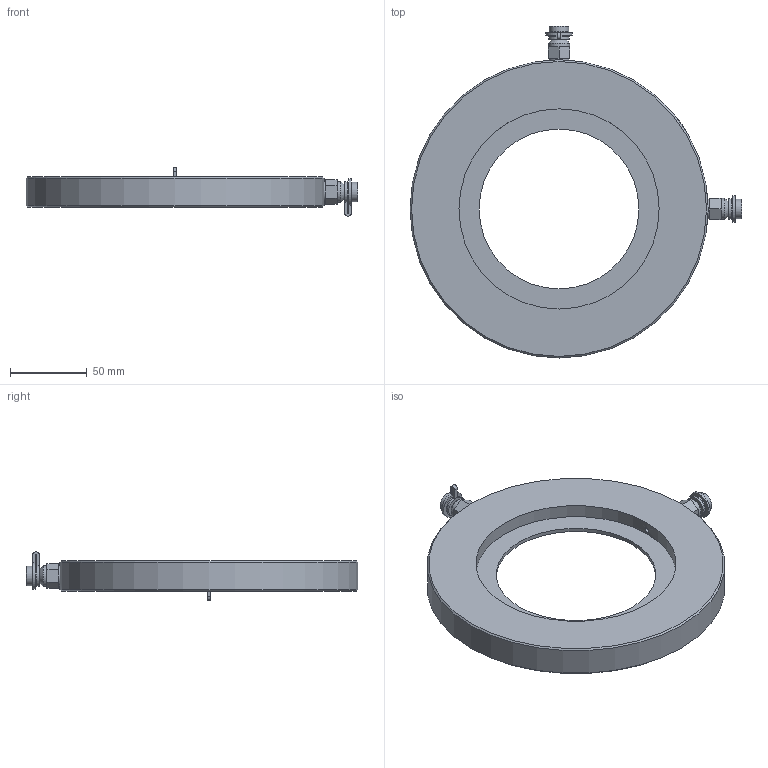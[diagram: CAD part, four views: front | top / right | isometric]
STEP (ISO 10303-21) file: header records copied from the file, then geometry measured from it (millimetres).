
FILE_DESCRIPTION((''),'2;1');
FILE_NAME('P:\Fastrack\53972_CRANE 3D\Workspace\HATTERSLEY\Fig-2000_DN125\Fig-2000_DN125.stp','2011-03-08T09:44:26',('btaylor'),(''),'Autodesk Inventor 2008','Autodesk Inventor 2008','');
FILE_SCHEMA(('AUTOMOTIVE_DESIGN { 1 0 10303 214 1 1 1 1 }'));
Length unit declared in the file: millimetre
Products named in the file (1): Fig-2000_DN125
Bounding box: 216.1 x 216.1 x 31.45 mm (x, y, z)
Volume: 342378.3 mm3; surface area: 65173.9 mm2
Topology: 1 solids, 1 shells, 109 faces, 255 edges, 165 vertices
Faces by surface type: plane 72, cylinder 27, cone 8, bspline 2
Full cylindrical faces by diameter (mm): 3.2 x2, 7.4 x2, 11 x2, 12.7 x2, 13.7 x2, 104 x1, 130.3 x2, 194 x1
Entity records: 3876 total; most frequent: CARTESIAN_POINT 1365, DIRECTION 478, ORIENTED_EDGE 440, EDGE_CURVE 220, AXIS2_PLACEMENT_3D 184, EDGE_LOOP 156, VERTEX_POINT 154, VECTOR 110
